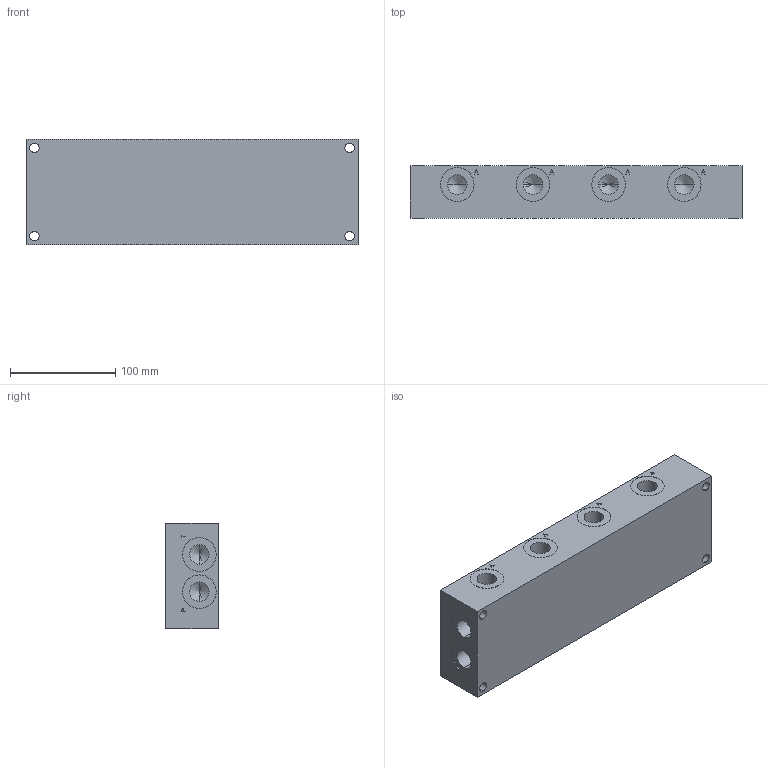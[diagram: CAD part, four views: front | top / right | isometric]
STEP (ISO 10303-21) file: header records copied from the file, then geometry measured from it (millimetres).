
FILE_DESCRIPTION (( 'STEP AP214' ), '1' );
FILE_NAME ('A10_4.STEP', '2017-05-01T14:06:09', ( '' ), ( '' ), 'SwSTEP 2.0', 'SolidWorks 2016', '' );
FILE_SCHEMA (( 'AUTOMOTIVE_DESIGN' ));
Length unit declared in the file: millimetre
Products named in the file (1): A10_4
Bounding box: 316 x 50 x 100 mm (x, y, z)
Volume: 1465306.2 mm3; surface area: 138494.3 mm2
Topology: 1 solids, 1 shells, 373 faces, 930 edges, 550 vertices
Faces by surface type: plane 135, cylinder 112, cone 84, bspline 42
Entity records: 13326 total; most frequent: CARTESIAN_POINT 4412, ORIENTED_EDGE 1692, DIRECTION 1634, EDGE_CURVE 846, VERTEX_POINT 550, AXIS2_PLACEMENT_3D 548, VECTOR 538, LINE 538
